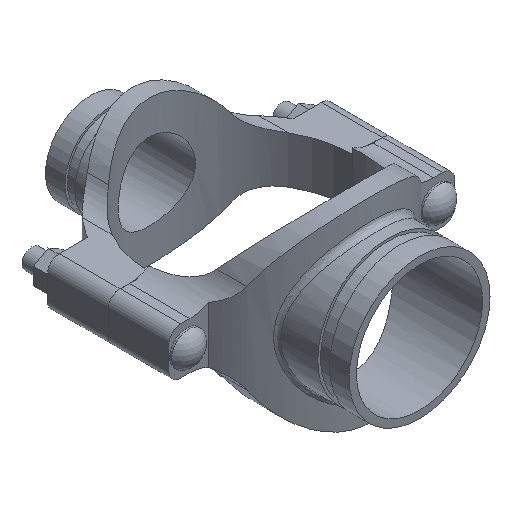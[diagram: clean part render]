
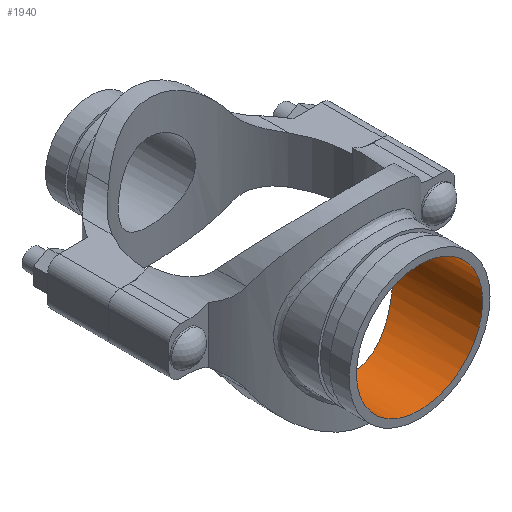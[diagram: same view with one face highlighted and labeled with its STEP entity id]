
A CAD part, isometric view. The second image highlights one B-rep face of the part: STEP entity #1940.
In plain terms, the highlighted cylindrical face has radius 51.197 mm (diameter 102.394 mm), a full revolution.
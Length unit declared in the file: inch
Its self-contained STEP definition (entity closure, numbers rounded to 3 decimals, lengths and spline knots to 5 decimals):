
#48=B_SPLINE_CURVE_WITH_KNOTS('',3,(#3956,#3957,#3958,#3959,#3960,#3961,
#3962,#3963,#3964,#3965,#3966,#3967,#3968,#3969,#3970,#3971,#3972,#3973,
#3974,#3975,#3976,#3977,#3978,#3979,#3980,#3981,#3982,#3983,#3984,#3985,
#3986,#3987,#3988,#3989,#3990,#3991,#3992,#3993,#3994,#3995,#3996,#3997,
#3998,#3999,#4000,#4001,#4002,#4003,#4004,#4005,#4006,#4007,#4008,#4009,
#4010,#4011,#4012,#4013,#4014,#4015,#4016,#4017,#4018,#4019,#4020,#4021),
 .UNSPECIFIED.,.T.,.F.,(4,2,2,2,2,2,2,2,2,2,2,2,2,2,2,2,2,2,2,2,2,2,2,2,
2,2,2,2,2,2,2,2,4),(0.,1.00125,2.0025,3.00375,
4.005,4.99863,5.99227,6.98591,7.97954,
8.97318,9.96682,10.96046,11.95409,12.95534,
13.95659,14.95784,15.95909,16.96034,17.96159,
18.96284,19.96408,20.95772,21.95136,22.945,
23.93863,24.93227,25.92591,26.91954,27.91318,
28.91443,29.91568,30.91693,31.91818),
 .UNSPECIFIED.);
#91=CYLINDRICAL_SURFACE('',#2169,2.01563);
#206=FACE_OUTER_BOUND('',#326,.T.);
#326=EDGE_LOOP('',(#1552,#1553,#1554,#1555));
#474=LINE('',#3955,#620);
#620=VECTOR('',#2620,2.01563);
#716=CIRCLE('',#2170,2.01563);
#877=VERTEX_POINT('',#3952);
#878=VERTEX_POINT('',#3954);
#1116=EDGE_CURVE('',#877,#877,#716,.T.);
#1117=EDGE_CURVE('',#877,#878,#474,.T.);
#1118=EDGE_CURVE('',#878,#878,#48,.T.);
#1552=ORIENTED_EDGE('',*,*,#1116,.F.);
#1553=ORIENTED_EDGE('',*,*,#1117,.T.);
#1554=ORIENTED_EDGE('',*,*,#1118,.F.);
#1555=ORIENTED_EDGE('',*,*,#1117,.F.);
#1940=ADVANCED_FACE('',(#206),#91,.F.);
#2169=AXIS2_PLACEMENT_3D('',#3951,#2616,#2617);
#2170=AXIS2_PLACEMENT_3D('',#3953,#2618,#2619);
#2616=DIRECTION('center_axis',(0.,-1.,0.));
#2617=DIRECTION('ref_axis',(-1.,0.,0.));
#2618=DIRECTION('center_axis',(0.,-1.,0.));
#2619=DIRECTION('ref_axis',(-1.,0.,0.));
#2620=DIRECTION('',(0.,-1.,0.));
#3951=CARTESIAN_POINT('Origin',(0.,5.38,0.));
#3952=CARTESIAN_POINT('',(2.01563,5.38,0.));
#3953=CARTESIAN_POINT('Origin',(0.,5.38,0.));
#3954=CARTESIAN_POINT('',(2.01563,2.54946,0.));
#3955=CARTESIAN_POINT('',(2.01563,5.38,0.));
#3956=CARTESIAN_POINT('Ctrl Pts',(2.01563,2.54946,0.));
#3957=CARTESIAN_POINT('Ctrl Pts',(2.01563,2.54946,-0.1314));
#3958=CARTESIAN_POINT('Ctrl Pts',(2.00259,2.55993,-0.2654));
#3959=CARTESIAN_POINT('Ctrl Pts',(1.94964,2.60049,-0.52889));
#3960=CARTESIAN_POINT('Ctrl Pts',(1.90975,2.63047,-0.6584));
#3961=CARTESIAN_POINT('Ctrl Pts',(1.80606,2.70271,-0.90485));
#3962=CARTESIAN_POINT('Ctrl Pts',(1.74218,2.74492,-1.02206));
#3963=CARTESIAN_POINT('Ctrl Pts',(1.59571,2.83257,-1.23835));
#3964=CARTESIAN_POINT('Ctrl Pts',(1.51309,2.87795,-1.33743));
#3965=CARTESIAN_POINT('Ctrl Pts',(1.3381,2.96334,-1.51243));
#3966=CARTESIAN_POINT('Ctrl Pts',(1.23936,3.00663,-1.59493));
#3967=CARTESIAN_POINT('Ctrl Pts',(1.02299,3.08696,-1.74164));
#3968=CARTESIAN_POINT('Ctrl Pts',(0.90535,3.12395,-1.80585));
#3969=CARTESIAN_POINT('Ctrl Pts',(0.65792,3.18526,-1.90995));
#3970=CARTESIAN_POINT('Ctrl Pts',(0.52788,3.20959,-1.94992));
#3971=CARTESIAN_POINT('Ctrl Pts',(0.26412,3.24197,-2.00277));
#3972=CARTESIAN_POINT('Ctrl Pts',(0.1304,3.25,-2.01563));
#3973=CARTESIAN_POINT('Ctrl Pts',(-0.1304,3.25,-2.01563));
#3974=CARTESIAN_POINT('Ctrl Pts',(-0.26412,3.24197,-2.00277));
#3975=CARTESIAN_POINT('Ctrl Pts',(-0.52788,3.20959,-1.94992));
#3976=CARTESIAN_POINT('Ctrl Pts',(-0.65792,3.18526,-1.90995));
#3977=CARTESIAN_POINT('Ctrl Pts',(-0.90535,3.12395,-1.80585));
#3978=CARTESIAN_POINT('Ctrl Pts',(-1.02299,3.08696,-1.74164));
#3979=CARTESIAN_POINT('Ctrl Pts',(-1.23936,3.00663,-1.59493));
#3980=CARTESIAN_POINT('Ctrl Pts',(-1.3381,2.96334,-1.51243));
#3981=CARTESIAN_POINT('Ctrl Pts',(-1.51309,2.87795,-1.33743));
#3982=CARTESIAN_POINT('Ctrl Pts',(-1.59571,2.83257,-1.23835));
#3983=CARTESIAN_POINT('Ctrl Pts',(-1.74218,2.74492,-1.02206));
#3984=CARTESIAN_POINT('Ctrl Pts',(-1.80606,2.70271,-0.90485));
#3985=CARTESIAN_POINT('Ctrl Pts',(-1.90975,2.63047,-0.6584));
#3986=CARTESIAN_POINT('Ctrl Pts',(-1.94964,2.60049,-0.52889));
#3987=CARTESIAN_POINT('Ctrl Pts',(-2.00259,2.55993,-0.2654));
#3988=CARTESIAN_POINT('Ctrl Pts',(-2.01563,2.54946,-0.1314));
#3989=CARTESIAN_POINT('Ctrl Pts',(-2.01563,2.54946,0.1314));
#3990=CARTESIAN_POINT('Ctrl Pts',(-2.00259,2.55993,0.2654));
#3991=CARTESIAN_POINT('Ctrl Pts',(-1.94964,2.60049,0.52889));
#3992=CARTESIAN_POINT('Ctrl Pts',(-1.90975,2.63047,0.6584));
#3993=CARTESIAN_POINT('Ctrl Pts',(-1.80606,2.70271,0.90485));
#3994=CARTESIAN_POINT('Ctrl Pts',(-1.74218,2.74492,1.02206));
#3995=CARTESIAN_POINT('Ctrl Pts',(-1.59571,2.83257,1.23835));
#3996=CARTESIAN_POINT('Ctrl Pts',(-1.51309,2.87795,1.33743));
#3997=CARTESIAN_POINT('Ctrl Pts',(-1.3381,2.96334,1.51243));
#3998=CARTESIAN_POINT('Ctrl Pts',(-1.23936,3.00663,1.59493));
#3999=CARTESIAN_POINT('Ctrl Pts',(-1.02299,3.08696,1.74164));
#4000=CARTESIAN_POINT('Ctrl Pts',(-0.90535,3.12395,1.80585));
#4001=CARTESIAN_POINT('Ctrl Pts',(-0.65792,3.18526,1.90995));
#4002=CARTESIAN_POINT('Ctrl Pts',(-0.52788,3.20959,1.94992));
#4003=CARTESIAN_POINT('Ctrl Pts',(-0.26412,3.24197,2.00277));
#4004=CARTESIAN_POINT('Ctrl Pts',(-0.1304,3.25,2.01563));
#4005=CARTESIAN_POINT('Ctrl Pts',(0.1304,3.25,2.01563));
#4006=CARTESIAN_POINT('Ctrl Pts',(0.26412,3.24197,2.00277));
#4007=CARTESIAN_POINT('Ctrl Pts',(0.52788,3.20959,1.94992));
#4008=CARTESIAN_POINT('Ctrl Pts',(0.65792,3.18526,1.90995));
#4009=CARTESIAN_POINT('Ctrl Pts',(0.90535,3.12395,1.80585));
#4010=CARTESIAN_POINT('Ctrl Pts',(1.02299,3.08696,1.74164));
#4011=CARTESIAN_POINT('Ctrl Pts',(1.23936,3.00663,1.59493));
#4012=CARTESIAN_POINT('Ctrl Pts',(1.3381,2.96334,1.51243));
#4013=CARTESIAN_POINT('Ctrl Pts',(1.51309,2.87795,1.33743));
#4014=CARTESIAN_POINT('Ctrl Pts',(1.59571,2.83257,1.23835));
#4015=CARTESIAN_POINT('Ctrl Pts',(1.74218,2.74492,1.02206));
#4016=CARTESIAN_POINT('Ctrl Pts',(1.80606,2.70271,0.90485));
#4017=CARTESIAN_POINT('Ctrl Pts',(1.90975,2.63047,0.6584));
#4018=CARTESIAN_POINT('Ctrl Pts',(1.94964,2.60049,0.52889));
#4019=CARTESIAN_POINT('Ctrl Pts',(2.00259,2.55993,0.2654));
#4020=CARTESIAN_POINT('Ctrl Pts',(2.01563,2.54946,0.1314));
#4021=CARTESIAN_POINT('Ctrl Pts',(2.01563,2.54946,0.));
